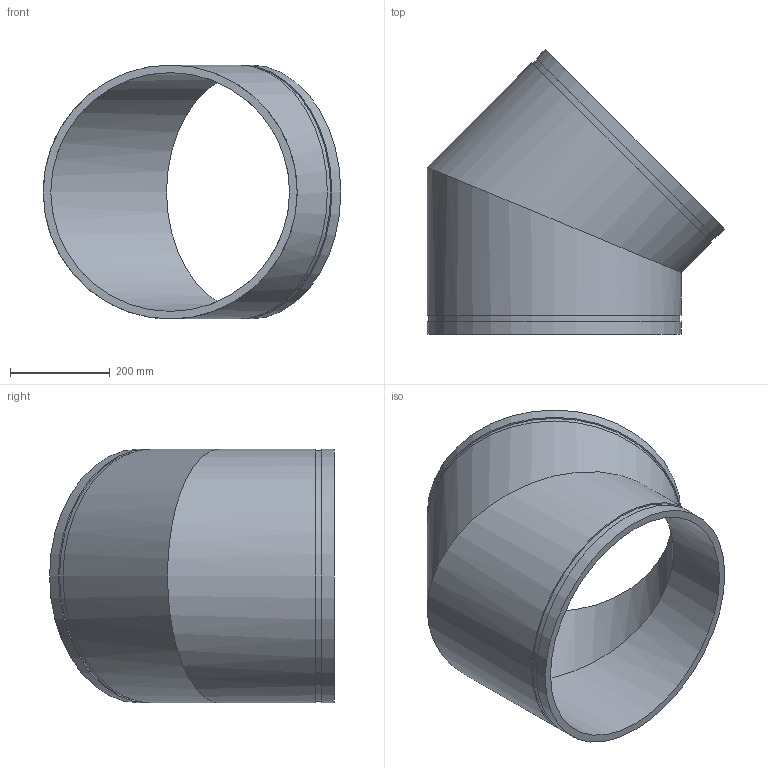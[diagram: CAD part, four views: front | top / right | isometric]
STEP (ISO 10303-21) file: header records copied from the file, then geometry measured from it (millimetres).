
FILE_DESCRIPTION(/* description */ ('VIC 45 DEG FABRICATED ELBOW No 11 SWS (OGS)','CAx-IF Rec.Pracs.---Representation and Presentation of Product Manufacturing Information (PMI)---4.0---2014-10-13'),/* implementation_level */ '2;1');
FILE_NAME(/* name */ 'C:\Users\kkamble\AppData\Roaming\Autodesk\ApplicationPlugins\Back Up\Victaulic_IPS_Elbow 45 Deg_No 11 SWS (OGS)\Victaulic_IPS_Elbow 45 Deg_No 11 SWS (OGS)_20 (500).stp',/* time_stamp */ '2020-09-16T22:15:16+06:00',/* author */ ('cgray'),/* organization */ ('Victaulic'),/* preprocessor_version */ 'ST-DEVELOPER v17.2',/* originating_system */ 'Autodesk Inventor 2019',/* authorisation */ '');
FILE_SCHEMA (('AP242_MANAGED_MODEL_BASED_3D_ENGINEERING_MIM_LF { 1 0 10303 442 1 1 4 }'));
Length unit declared in the file: inch
Products named in the file (1): 11 SWS-20.0
Bounding box: 595.25 x 569.85 x 508 mm (x, y, z)
Volume: 10552279.1 mm3; surface area: 1479913.8 mm2
Topology: 1 solids, 1 shells, 14 faces, 30 edges, 22 vertices
Faces by surface type: cylinder 8, plane 6
Full cylindrical faces by diameter (mm): 477.876 x2, 502.437 x2, 508 x4
Entity records: 554 total; most frequent: DIRECTION 108, CARTESIAN_POINT 84, ORIENTED_EDGE 60, AXIS2_PLACEMENT_3D 50, EDGE_CURVE 30, VERTEX_POINT 22, EDGE_LOOP 20, CIRCLE 16
